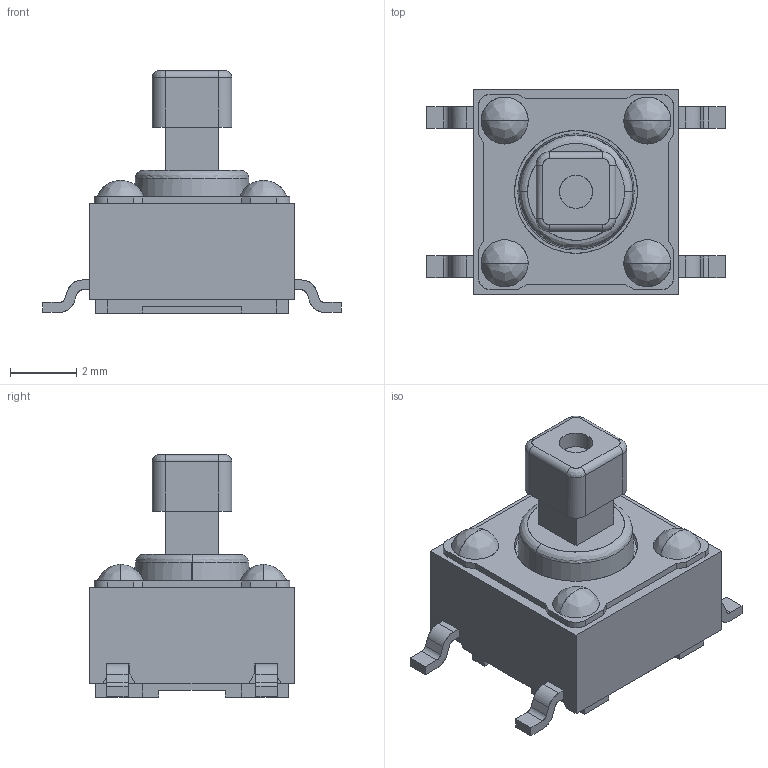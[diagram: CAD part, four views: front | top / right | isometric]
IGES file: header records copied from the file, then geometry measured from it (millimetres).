
Start section: SolidWorks IGES file using analytic representation for surfaces
Global section: file name: I:\J-暫存區\720\DTSM-644.IGS,15; native system: HSolidWorks 2008; preprocessor: SolidWorks 2008; author: 820201; date: 120523.094406; units: millimetre
Bounding box: 9 x 6.2 x 7.3 mm (x, y, z)
Surface area: 520.9 mm2 (no closed solid volume)
Topology: 0 solids, 0 shells, 522 faces, 4251 edges, 4233 vertices
Faces by surface type: bspline 355, revolution 167
